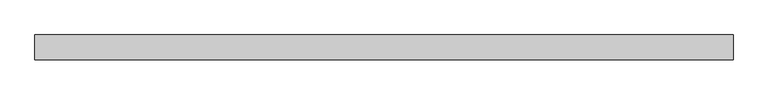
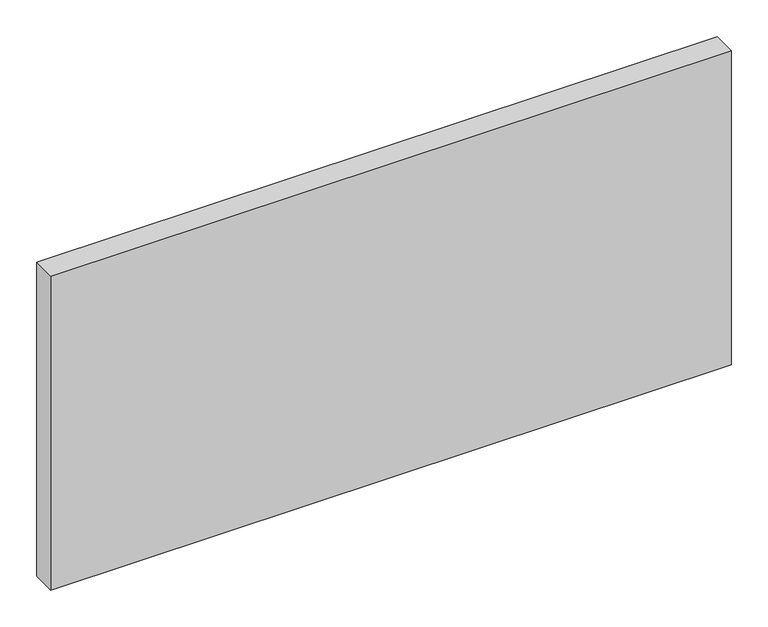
"""IFC4 building model written with IfcOpenShell, lengths in millimetres: proxy geometry, FOUNDATION^WORKSURFACES_FIXED RETURN TOP-42x20.5."""

from ifc_helpers import new_model, si_unit, frame, origin, place, context, project, spatial, polyline, outline, extrude, source, transform, mapped, element, save


def generic_models_b5881524(model_context):
    return source(origin(), model_context, "Body", "SweptSolid", [
        extrude(outline(polyline([(1066.8, 0.0), (0.0, 0.0), (0.0, 38.1), (1066.8, 38.1), (1066.8, 0.0)])), frame((0.0, 0.0, -520.7), z_axis=(0.0, 0.0, 1.0), x_axis=(1.0, 0.0, 0.0)), (0.0, 0.0, 1.0), 520.7),
    ])


if __name__ == "__main__":
    model = new_model("IFC4")
    model_context = context("Model", 3, world=origin())
    ifc_project = project(units=[si_unit("LENGTHUNIT", "METRE", prefix="MILLI")], contexts=[model_context])
    site = spatial("IfcSite", under=ifc_project)
    building = spatial("IfcBuilding", under=site)
    placement = place(None, origin())
    generic_models_shape = generic_models_b5881524(model_context)
    element("IfcBuildingElementProxy", 1, Name="FOUNDATION^WORKSURFACES_FIXED RETURN TOP-42x20.5", ObjectType="FOUNDATION^WORKSURFACES_FIXED RETURN TOP-42x20.5", at=placement, inside=building, context=model_context, shape_type="MappedRepresentation", body=[
        mapped(generic_models_shape, transform((0.0, 0.0, 0.0), x_axis=(1.0, 0.0, 0.0), y_axis=(0.0, 1.0, 0.0), z_axis=(0.0, 0.0, 1.0))),
    ])
    save(model, "model.ifc")
